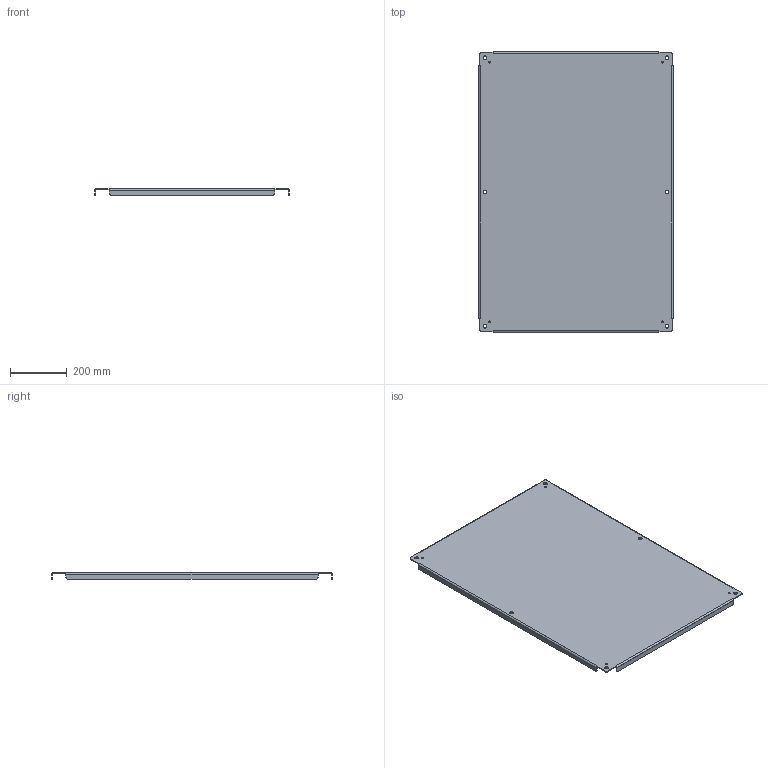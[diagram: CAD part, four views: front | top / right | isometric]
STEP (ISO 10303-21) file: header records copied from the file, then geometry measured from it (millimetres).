
FILE_DESCRIPTION((''),'2;1');
FILE_NAME('MODEL-070_ASM','2016-05-27T',('joelb'),('SAGINAW CONTROL & ENGINEERING'),'PRO/ENGINEER BY PARAMETRIC TECHNOLOGY CORPORATION, 2012070','PRO/ENGINEER BY PARAMETRIC TECHNOLOGY CORPORATION, 2012070','');
FILE_SCHEMA(('AUTOMOTIVE_DESIGN { 1 0 10303 214 1 1 1 1 }'));
Length unit declared in the file: inch
Products named in the file (2): MODEL-070-SUBPNL; MODEL-070_ASM
Assembly tree (1 placements, depth 2):
  MODEL-070_ASM
    MODEL-070-SUBPNL
Bounding box: 684.21 x 989.01 x 22.23 mm (x, y, z)
Volume: 2301354.6 mm3; surface area: 1461679.9 mm2
Topology: 1 solids, 1 shells, 102 faces, 268 edges, 168 vertices
Faces by surface type: cylinder 40, plane 38, bspline 24
Entity records: 4654 total; most frequent: CARTESIAN_POINT 1209, ORIENTED_EDGE 536, DIRECTION 510, PRESENTATION_STYLE_ASSIGNMENT 269, STYLED_ITEM 269, CURVE_STYLE 268, EDGE_CURVE 268, AXIS2_PLACEMENT_3D 177
